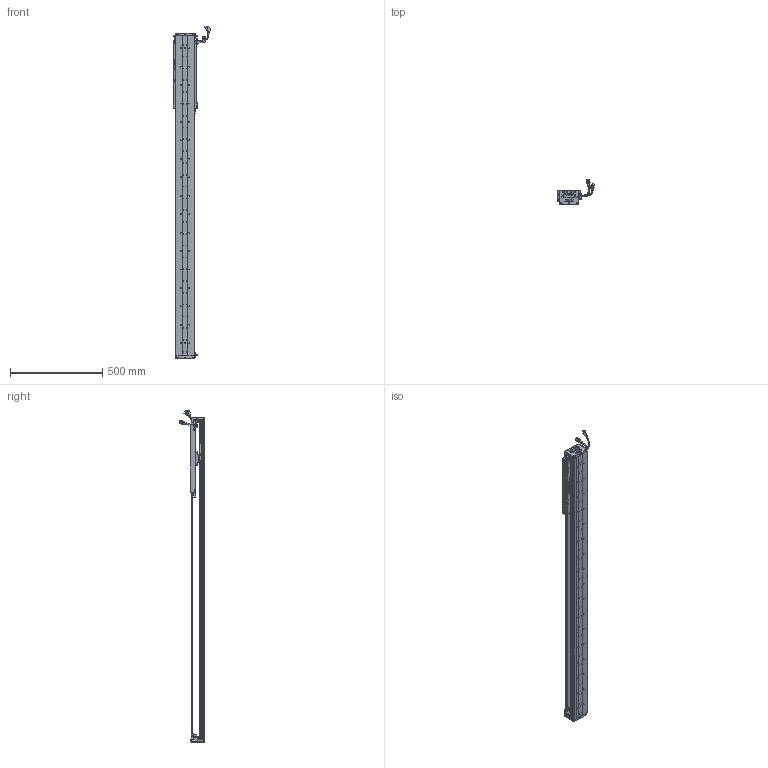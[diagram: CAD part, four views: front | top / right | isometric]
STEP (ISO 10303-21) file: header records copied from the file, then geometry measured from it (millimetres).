
FILE_DESCRIPTION (( 'STEP AP203' ), '1' );
FILE_NAME ('Z5-RY100D-1-L500-B-K.SLDASM_1300.step', '2021-05-17T03:33:22', ( '盈信电脑' ), ( '东莞市道滘镇水果街19号' ), 'SwSTEP 2.0', 'SolidWorks 2016', '' );
FILE_SCHEMA (( 'CONFIG_CONTROL_DESIGN' ));
Length unit declared in the file: millimetre
Products named in the file (36): SCREW-M1.6-2; PBU_SHEET; Z-RY100D詩湍奻揤裔; 100-Z-臏賑輸盄裔(21遴); Z-RY100D覜茼んえ; Z5-RY100铝滑块（21款）; 140雄赽晤鎢ん堤盄; SEAL-Part-1; HOLDER0; 140蚥薯蝶輸; COVER; PSLH080_PSLF2; 覜茼ん672; SCREW-M1.7-1; HARNESS; SCREW-M1.7; SCREW-M1.6-3; SCALE; HARNESS-Part-2; Z5-RY100D-1-L500-B-K.SLDASM_1300; Z5-RY100D-500-倰第菁釱_1300; 榋妏寠巭燃_暯_M2_2; 080黍杅芛假蚾釱21遴; LABEL; LABEL-Part-1; SCREW-M1.6; SCALE-Part-2; Z-RY100D詩湍狟揤裔; SCALE-Part-1; HARNESS-Part-1; Z5-RY100-L500詩湍90mm遵_1300; SHIELDPLATE; SCREW-M1.6-1; Z-100詩湍傷裔啣; SEAL; COVER-Part-1
Assembly tree (43 placements, depth 4):
  Z5-RY100D-1-L500-B-K.SLDASM_1300
    Z5-RY100D-500-倰第菁釱_1300
    Z5-RY100铝滑块（21款）
    PSLH080_PSLF2
      SCALE
        SCALE-Part-1
        SCALE-Part-2
      HARNESS
        HARNESS-Part-1
        HARNESS-Part-2
      LABEL
        LABEL-Part-1
      COVER
        COVER-Part-1
      SEAL
        SEAL-Part-1
      榋妏寠巭燃_暯_M2_2
      SHIELDPLATE
      SCREW-M1.7
      SCREW-M1.7-1
      PBU_SHEET
      SCREW-M1.6
      SCREW-M1.6-1
      SCREW-M1.6-2
      SCREW-M1.6-3
      HOLDER0
    080黍杅芛假蚾釱21遴
    Z-100詩湍傷裔啣  x2
    140蚥薯蝶輸  x2
    覜茼ん672  x3
    Z-RY100D覜茼んえ  x3
    100-Z-臏賑輸盄裔(21遴)
    140雄赽晤鎢ん堤盄
    Z5-RY100-L500詩湍90mm遵_1300
    Z-RY100D詩湍狟揤裔  x2
    Z-RY100D詩湍奻揤裔  x2
Bounding box: 205.83 x 136.11 x 1800.43 mm (x, y, z)
Volume: 3709567.4 mm3; surface area: 1408167.8 mm2
Topology: 38 solids, 38 shells, 2775 faces, 7411 edges, 4708 vertices
Faces by surface type: cylinder 1278, plane 1149, cone 226, torus 69, bspline 53
Entity records: 77665 total; most frequent: CARTESIAN_POINT 16299, DIRECTION 12417, ORIENTED_EDGE 11702, EDGE_CURVE 5851, AXIS2_PLACEMENT_3D 4618, VERTEX_POINT 3776, VECTOR 3181, LINE 3181
